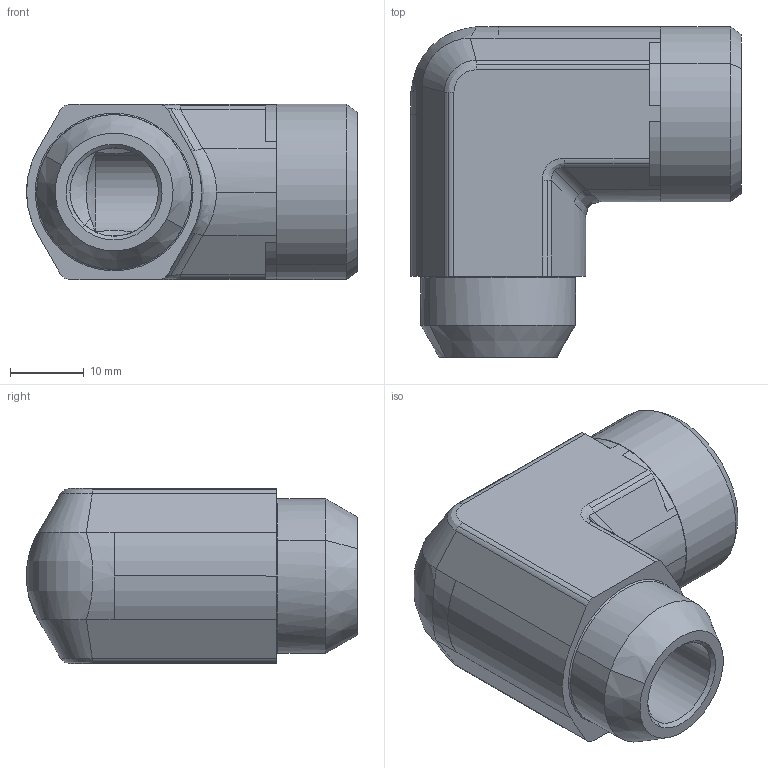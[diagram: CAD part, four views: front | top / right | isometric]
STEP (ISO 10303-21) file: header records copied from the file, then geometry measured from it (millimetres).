
FILE_DESCRIPTION((''),'2;1');
FILE_NAME('105819.stp','2007-10-31T14:41:24',(''),(''),'AutoCAD STEP 2000i','AutoCAD 2000i',', , ');
FILE_SCHEMA(('CONFIG_CONTROL_DESIGN'));
Length unit declared in the file: millimetre
Products named in the file (2): 105819.0; 3090#0
Assembly tree (1 placements, depth 2):
  105819.0
    3090#0
Bounding box: 44.88 x 44.88 x 23.77 mm (x, y, z)
Volume: 20511.6 mm3; surface area: 7979.1 mm2
Topology: 1 solids, 1 shells, 106 faces, 254 edges, 152 vertices
Faces by surface type: cylinder 48, plane 26, cone 18, bspline 14
Entity records: 3969 total; most frequent: CARTESIAN_POINT 1379, DIRECTION 556, ORIENTED_EDGE 508, EDGE_CURVE 254, AXIS2_PLACEMENT_3D 227, VERTEX_POINT 152, CIRCLE 114, EDGE_LOOP 110
